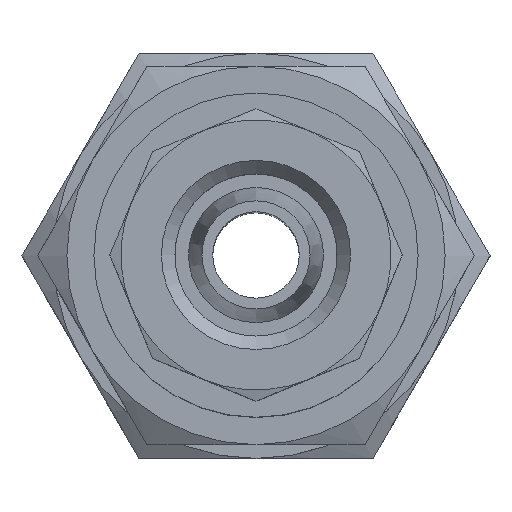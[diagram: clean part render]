
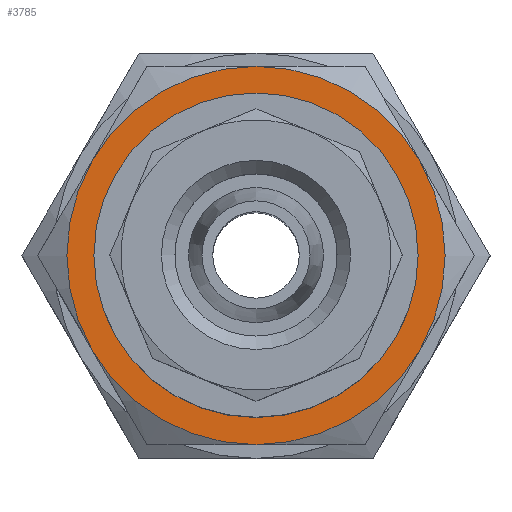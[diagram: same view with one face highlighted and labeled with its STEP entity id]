
A CAD part, top view. The second image highlights one B-rep face of the part: STEP entity #3785.
In plain terms, the highlighted planar face has unit normal (0, 0, 1) as drawn and (0, 1, 0) by its records, which use the part's own axes.
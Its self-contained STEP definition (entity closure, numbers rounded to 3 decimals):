
#1749=PLANE('',#3584);
#1916=ORIENTED_EDGE('',*,*,#2335,.F.);
#1917=ORIENTED_EDGE('',*,*,#2336,.F.);
#1918=ORIENTED_EDGE('',*,*,#2333,.F.);
#1919=ORIENTED_EDGE('',*,*,#2337,.F.);
#1920=ORIENTED_EDGE('',*,*,#2338,.F.);
#1921=ORIENTED_EDGE('',*,*,#2339,.F.);
#1922=ORIENTED_EDGE('',*,*,#2308,.T.);
#2108=CIRCLE('',#3546,4.25);
#2126=CIRCLE('',#3582,7.);
#2127=CIRCLE('',#3585,7.);
#2128=CIRCLE('',#3586,7.);
#2129=CIRCLE('',#3587,7.);
#2130=CIRCLE('',#3588,7.);
#2131=CIRCLE('',#3589,7.);
#2188=VERTEX_POINT('',#3243);
#2208=VERTEX_POINT('',#3295);
#2211=VERTEX_POINT('',#3304);
#2212=VERTEX_POINT('',#3308);
#2213=VERTEX_POINT('',#3309);
#2214=VERTEX_POINT('',#3312);
#2215=VERTEX_POINT('',#3314);
#2308=EDGE_CURVE('',#2188,#2188,#2108,.T.);
#2333=EDGE_CURVE('',#2211,#2208,#2126,.T.);
#2335=EDGE_CURVE('',#2212,#2213,#2127,.T.);
#2336=EDGE_CURVE('',#2208,#2212,#2128,.T.);
#2337=EDGE_CURVE('',#2214,#2211,#2129,.T.);
#2338=EDGE_CURVE('',#2215,#2214,#2130,.T.);
#2339=EDGE_CURVE('',#2213,#2215,#2131,.T.);
#2476=EDGE_LOOP('',(#1916,#1917,#1918,#1919,#1920,#1921));
#2477=EDGE_LOOP('',(#1922));
#2598=FACE_BOUND('',#2476,.T.);
#2599=FACE_BOUND('',#2477,.T.);
#2803=DIRECTION('',(0.,-1.,0.));
#2804=DIRECTION('',(0.,0.,4.25));
#2877=DIRECTION('',(0.,-1.,0.));
#2878=DIRECTION('',(0.,0.,7.));
#2881=DIRECTION('',(0.,1.,0.));
#2882=DIRECTION('',(1.,0.,0.));
#2883=DIRECTION('',(0.,-1.,0.));
#2884=DIRECTION('',(0.,0.,7.));
#2885=DIRECTION('',(0.,-1.,0.));
#2886=DIRECTION('',(0.,0.,7.));
#2887=DIRECTION('',(0.,-1.,0.));
#2888=DIRECTION('',(0.,0.,7.));
#2889=DIRECTION('',(0.,-1.,0.));
#2890=DIRECTION('',(0.,0.,7.));
#2891=DIRECTION('',(0.,-1.,0.));
#2892=DIRECTION('',(0.,0.,7.));
#3243=CARTESIAN_POINT('',(0.,20.4,4.25));
#3244=CARTESIAN_POINT('',(0.,20.4,0.));
#3295=CARTESIAN_POINT('',(6.062,20.4,-3.5));
#3304=CARTESIAN_POINT('',(0.,20.4,-7.));
#3305=CARTESIAN_POINT('',(0.,20.4,0.));
#3307=CARTESIAN_POINT('',(0.,20.4,7.));
#3308=CARTESIAN_POINT('',(6.062,20.4,3.5));
#3309=CARTESIAN_POINT('',(0.,20.4,7.));
#3310=CARTESIAN_POINT('',(0.,20.4,0.));
#3311=CARTESIAN_POINT('',(0.,20.4,0.));
#3312=CARTESIAN_POINT('',(-6.062,20.4,-3.5));
#3313=CARTESIAN_POINT('',(0.,20.4,0.));
#3314=CARTESIAN_POINT('',(-6.062,20.4,3.5));
#3315=CARTESIAN_POINT('',(0.,20.4,0.));
#3316=CARTESIAN_POINT('',(0.,20.4,0.));
#3546=AXIS2_PLACEMENT_3D('',#3244,#2803,#2804);
#3582=AXIS2_PLACEMENT_3D('',#3305,#2877,#2878);
#3584=AXIS2_PLACEMENT_3D('',#3307,#2881,#2882);
#3585=AXIS2_PLACEMENT_3D('',#3310,#2883,#2884);
#3586=AXIS2_PLACEMENT_3D('',#3311,#2885,#2886);
#3587=AXIS2_PLACEMENT_3D('',#3313,#2887,#2888);
#3588=AXIS2_PLACEMENT_3D('',#3315,#2889,#2890);
#3589=AXIS2_PLACEMENT_3D('',#3316,#2891,#2892);
#3785=ADVANCED_FACE('',(#2598,#2599),#1749,.T.);
